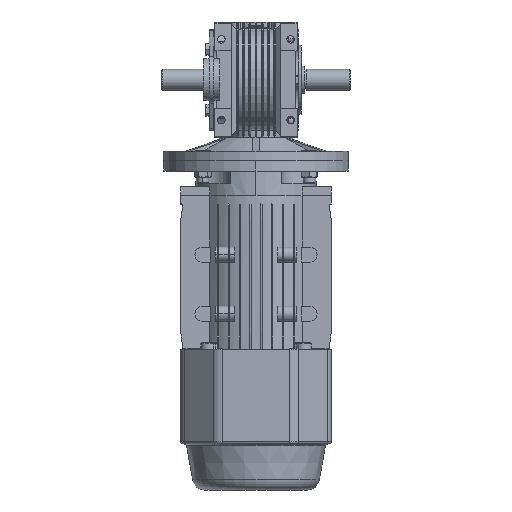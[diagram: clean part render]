
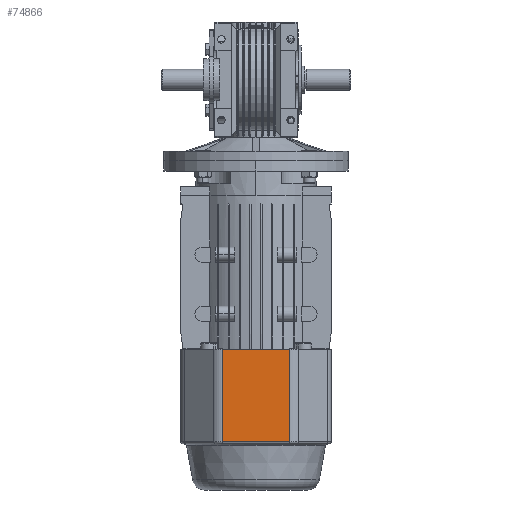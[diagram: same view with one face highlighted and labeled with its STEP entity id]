
A CAD part, front view. The second image highlights one B-rep face of the part: STEP entity #74866.
In plain terms, the highlighted planar face has unit normal (0, -1, 0).
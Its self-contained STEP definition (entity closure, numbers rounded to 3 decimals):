
#1727 = VERTEX_POINT ( 'NONE', #117873 ) ;
#8711 = VECTOR ( 'NONE', #95035, 1000. ) ;
#12334 = DIRECTION ( 'NONE',  ( 1., 0., 0. ) ) ;
#13506 = DIRECTION ( 'NONE',  ( 0., -1., 0. ) ) ;
#13837 = VECTOR ( 'NONE', #74981, 1000. ) ;
#15306 = AXIS2_PLACEMENT_3D ( 'NONE', #88188, #13506, #116996 ) ;
#20890 = ORIENTED_EDGE ( 'NONE', *, *, #113537, .T. ) ;
#26421 = LINE ( 'NONE', #122119, #29413 ) ;
#29413 = VECTOR ( 'NONE', #94036, 1000. ) ;
#34928 = VECTOR ( 'NONE', #12334, 1000. ) ;
#36772 = VERTEX_POINT ( 'NONE', #114860 ) ;
#36807 = LINE ( 'NONE', #57172, #8711 ) ;
#57172 = CARTESIAN_POINT ( 'NONE',  ( -29.009, -65., -215.188 ) ) ;
#63272 = ORIENTED_EDGE ( 'NONE', *, *, #86518, .F. ) ;
#66276 = CARTESIAN_POINT ( 'NONE',  ( -29.009, -65., -133.125 ) ) ;
#70306 = VERTEX_POINT ( 'NONE', #66276 ) ;
#74866 = ADVANCED_FACE ( 'NONE', ( #114042 ), #108718, .T. ) ;
#74981 = DIRECTION ( 'NONE',  ( 1., 0., 0. ) ) ;
#75775 = CARTESIAN_POINT ( 'NONE',  ( 29.009, -65., -213.188 ) ) ;
#78829 = LINE ( 'NONE', #75775, #13837 ) ;
#80359 = ORIENTED_EDGE ( 'NONE', *, *, #116950, .T. ) ;
#85110 = ORIENTED_EDGE ( 'NONE', *, *, #85395, .T. ) ;
#85395 = EDGE_CURVE ( 'NONE', #1727, #113956, #26421, .T. ) ;
#86518 = EDGE_CURVE ( 'NONE', #70306, #113956, #104236, .T. ) ;
#88188 = CARTESIAN_POINT ( 'NONE',  ( 33.425, -65., -215.188 ) ) ;
#94036 = DIRECTION ( 'NONE',  ( 0., 0., 1. ) ) ;
#95035 = DIRECTION ( 'NONE',  ( 0., 0., -1. ) ) ;
#96421 = CARTESIAN_POINT ( 'NONE',  ( 33.425, -65., -133.125 ) ) ;
#102383 = CARTESIAN_POINT ( 'NONE',  ( 29.009, -65., -133.125 ) ) ;
#102696 = EDGE_LOOP ( 'NONE', ( #80359, #20890, #85110, #63272 ) ) ;
#104236 = LINE ( 'NONE', #96421, #34928 ) ;
#108718 = PLANE ( 'NONE',  #15306 ) ;
#113537 = EDGE_CURVE ( 'NONE', #36772, #1727, #78829, .T. ) ;
#113956 = VERTEX_POINT ( 'NONE', #102383 ) ;
#114042 = FACE_OUTER_BOUND ( 'NONE', #102696, .T. ) ;
#114860 = CARTESIAN_POINT ( 'NONE',  ( -29.009, -65., -213.188 ) ) ;
#116950 = EDGE_CURVE ( 'NONE', #70306, #36772, #36807, .T. ) ;
#116996 = DIRECTION ( 'NONE',  ( 0., 0., -1. ) ) ;
#117873 = CARTESIAN_POINT ( 'NONE',  ( 29.009, -65., -213.188 ) ) ;
#122119 = CARTESIAN_POINT ( 'NONE',  ( 29.009, -65., -215.188 ) ) ;
